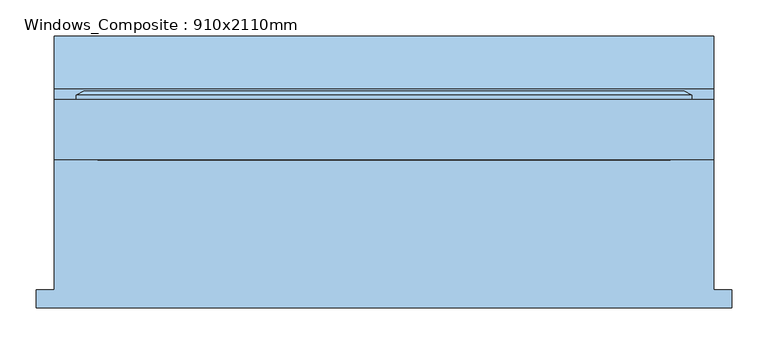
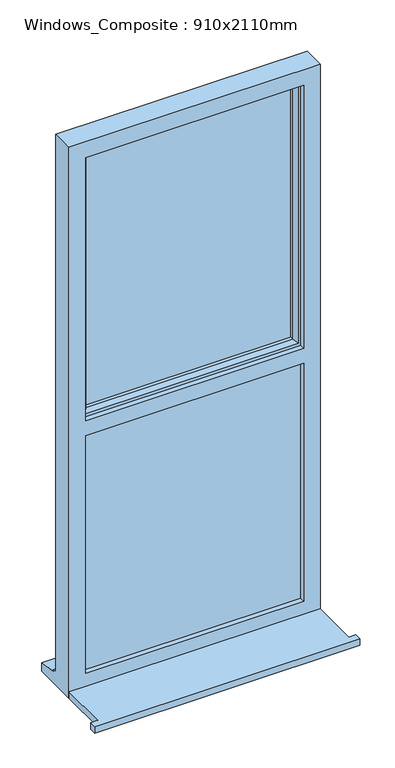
"""IFC4 building model written with IfcOpenShell, lengths in millimetres: window geometry, Windows_Composite : 910x2110mm."""

from ifc_helpers import new_model, si_unit, frame, origin, origin_with_axes, place, context, project, spatial, polyline, outline, extrude, faceted_brep, source, transform, mapped, element, save


def windows_composite_910x2110mm_37af9662(model_context):
    return source(origin(), model_context, "Body", "SolidModel", [
        extrude(outline(polyline([(-765.0, -172.7934322), (-765.0, -147.7934322), (-740.0, -147.7934322), (-740.0, 31.7065678), (170.0, 31.7065678), (170.0, -147.7934322), (195.0, -147.7934322), (195.0, -172.7934322), (-765.0, -172.7934322)])), origin_with_axes(), (0.0, 0.0, 1.0), 25.0),
        extrude(outline(polyline([(100.0, 78.7065678), (-670.0, 78.7065678), (-670.0, 102.7065678), (100.0, 102.7065678), (100.0, 78.7065678)])), frame((0.0, 0.0, 1055.0), z_axis=(0.0, 0.0, 1.0), x_axis=(1.0, 0.0, 0.0)), (0.0, 0.0, 1.0), 985.0),
        faceted_brep([(170.0, 31.7065678, 2110.0), (-740.0, 31.7065678, 2110.0), (-740.0, 31.7065678, 0.0), (170.0, 31.7065678, 0.0), (-680.0, 31.7065678, 75.0), (-680.0, 31.7065678, 985.0), (110.0, 31.7065678, 985.0), (110.0, 31.7065678, 75.0), (-680.0, 31.7065678, 2050.0), (110.0, 31.7065678, 2050.0), (110.0, 31.7065678, 1043.0), (-680.0, 31.7065678, 1043.0), (-740.0, 114.7065678, 2110.0), (-740.0, 114.7065678, 51.0), (-740.0, 129.7065678, 49.68767), (-740.0, 129.7065678, 44.7449676), (-740.0, 202.2065678, 33.8088847), (-740.0, 202.2065678, 0.0), (170.0, 114.7065678, 2110.0), (170.0, 114.7065678, 51.0), (130.0, 114.7065678, 63.0), (130.0, 114.7065678, 985.0), (-700.0, 114.7065678, 985.0), (-700.0, 114.7065678, 63.0), (130.0, 114.7065678, 2070.0), (-700.0, 114.7065678, 2070.0), (-700.0, 114.7065678, 1025.0), (130.0, 114.7065678, 1025.0), (-700.0, 49.7065678, 2070.0), (-700.0, 49.7065678, 1025.0), (-700.0, 49.7065678, 63.0), (-700.0, 49.7065678, 985.0), (-680.0, 49.7065678, 75.0), (110.0, 49.7065678, 75.0), (110.0, 49.7065678, 985.0), (130.0, 49.7065678, 985.0), (130.0, 49.7065678, 63.0), (-680.0, 49.7065678, 985.0), (130.0, 49.7065678, 2070.0), (130.0, 49.7065678, 1025.0), (-680.0, 49.7065678, 2050.0), (-680.0, 49.7065678, 1043.0), (110.0, 49.7065678, 1043.0), (110.0, 49.7065678, 2050.0), (170.0, 202.2065678, 0.0), (170.0, 202.2065678, 33.8088847), (170.0, 129.7065678, 44.7449676), (170.0, 129.7065678, 49.68767)], [[[0, 1, 2, 3], [4, 5, 6, 7], [8, 9, 10, 11]], [[1, 12, 13, 14, 15, 16, 17, 2]], [[12, 18, 19, 13], [20, 21, 22, 23], [24, 25, 26, 27]], [[25, 28, 29, 26]], [[30, 23, 22, 31]], [[32, 33, 34, 35, 36, 30, 31, 37]], [[28, 38, 39, 29], [40, 41, 42, 43]], [[40, 8, 11, 41]], [[4, 32, 37, 5]], [[1, 0, 18, 12]], [[25, 24, 38, 28]], [[9, 8, 40, 43]], [[18, 0, 3, 44, 45, 46, 47, 19]], [[39, 38, 24, 27]], [[20, 36, 35, 21]], [[9, 43, 42, 10]], [[33, 7, 6, 34]], [[44, 3, 2, 17]], [[45, 44, 17, 16]], [[46, 45, 16, 15]], [[47, 46, 15, 14]], [[19, 47, 14, 13]], [[20, 23, 30, 36]], [[4, 7, 33, 32]], [[27, 26, 29, 39]], [[11, 10, 42, 41]], [[22, 21, 35, 34, 6, 5, 37, 31]]]),
        extrude(outline(polyline([(-700.0, 102.7065678), (130.0, 102.7065678), (130.0, 49.7065678), (-700.0, 49.7065678), (-700.0, 102.7065678)])), frame((0.0, 0.0, 63.0), z_axis=(0.0, 0.0, 1.0), x_axis=(1.0, 0.0, 0.0)), (0.0, 0.0, 1.0), 922.0),
        faceted_brep([(-710.0, 114.7065678, 2080.0), (-710.0, 120.4800705, 2080.0), (-710.0, 120.4800705, 1015.0), (-710.0, 114.7065678, 1015.0), (-700.0, 49.7065678, 2070.0), (-700.0, 114.7065678, 2070.0), (-700.0, 114.7065678, 1025.0), (-700.0, 49.7065678, 1025.0), (-660.0, 64.1994677, 2030.0), (-670.1480377, 49.7065678, 2040.1480377), (-670.1480377, 49.7065678, 1054.8519623), (-660.0, 64.1994677, 1065.0), (-660.0, 78.7065678, 2030.0), (-660.0, 78.7065678, 1065.0), (-670.0, 102.7065678, 2040.0), (-670.0, 78.7065678, 2040.0), (-670.0, 78.7065678, 1055.0), (-670.0, 102.7065678, 1055.0), (-660.0, 120.4800705, 2030.0), (-660.0, 102.7065678, 2030.0), (-660.0, 102.7065678, 1065.0), (-660.0, 120.4800705, 1065.0), (-677.4457548, 126.2535732, 2047.4457548), (-677.4457548, 126.2535732, 1047.5542452), (-699.2153903, 126.2535732, 2069.2153903), (-699.2153903, 126.2535732, 1025.7846097), (140.0, 120.4800705, 1015.0), (140.0, 114.7065678, 1015.0), (130.0, 114.7065678, 1025.0), (130.0, 49.7065678, 1025.0), (100.1480377, 49.7065678, 1054.8519623), (90.0, 64.1994677, 1065.0), (90.0, 78.7065678, 1065.0), (100.0, 78.7065678, 1055.0), (100.0, 102.7065678, 1055.0), (90.0, 102.7065678, 1065.0), (90.0, 120.4800705, 1065.0), (107.4457548, 126.2535732, 1047.5542452), (129.2153903, 126.2535732, 1025.7846097), (140.0, 120.4800705, 2080.0), (140.0, 114.7065678, 2080.0), (130.0, 114.7065678, 2070.0), (130.0, 49.7065678, 2070.0), (100.1480377, 49.7065678, 2040.1480377), (90.0, 64.1994677, 2030.0), (90.0, 78.7065678, 2030.0), (100.0, 78.7065678, 2040.0), (100.0, 102.7065678, 2040.0), (90.0, 102.7065678, 2030.0), (90.0, 120.4800705, 2030.0), (107.4457548, 126.2535732, 2047.4457548), (129.2153903, 126.2535732, 2069.2153903)], [[[0, 1, 2, 3]], [[4, 5, 6, 7]], [[8, 9, 10, 11]], [[12, 8, 11, 13]], [[14, 15, 16, 17]], [[18, 19, 20, 21]], [[22, 18, 21, 23]], [[1, 24, 25, 2]], [[3, 2, 26, 27]], [[7, 6, 28, 29]], [[11, 10, 30, 31]], [[13, 11, 31, 32]], [[17, 16, 33, 34]], [[21, 20, 35, 36]], [[23, 21, 36, 37]], [[2, 25, 38, 26]], [[27, 26, 39, 40]], [[29, 28, 41, 42]], [[31, 30, 43, 44]], [[32, 31, 44, 45]], [[34, 33, 46, 47]], [[36, 35, 48, 49]], [[37, 36, 49, 50]], [[26, 38, 51, 39]], [[40, 39, 1, 0]], [[3, 27, 40, 0], [5, 41, 28, 6]], [[42, 41, 5, 4]], [[7, 29, 42, 4], [9, 43, 30, 10]], [[44, 43, 9, 8]], [[45, 44, 8, 12]], [[15, 46, 33, 16], [13, 32, 45, 12]], [[47, 46, 15, 14]], [[17, 34, 47, 14], [19, 48, 35, 20]], [[49, 48, 19, 18]], [[50, 49, 18, 22]], [[24, 51, 38, 25], [23, 37, 50, 22]], [[39, 51, 24, 1]]]),
    ])


if __name__ == "__main__":
    model = new_model("IFC4")
    model_context = context("Model", 3, world=origin())
    ifc_project = project(units=[si_unit("LENGTHUNIT", "METRE", prefix="MILLI")], contexts=[model_context])
    site = spatial("IfcSite", under=ifc_project)
    building = spatial("IfcBuilding", under=site)
    placement = place(None, origin())
    windows_composite_910x2110mm_shape = windows_composite_910x2110mm_37af9662(model_context)
    element("IfcWindow", 1, ObjectType="Windows_Composite : 910x2110mm", at=placement, inside=building, context=model_context, shape_type="MappedRepresentation", body=[
        mapped(windows_composite_910x2110mm_shape, transform((0.0, 0.0, 0.0), x_axis=(1.0, 0.0, 0.0), y_axis=(0.0, 1.0, 0.0), z_axis=(0.0, 0.0, 1.0))),
    ])
    save(model, "model.ifc")
